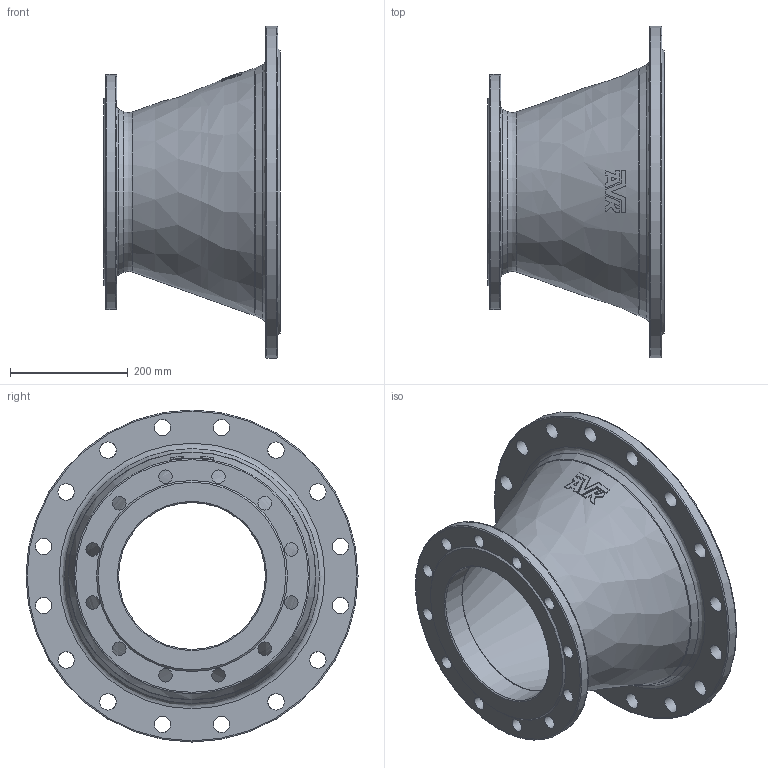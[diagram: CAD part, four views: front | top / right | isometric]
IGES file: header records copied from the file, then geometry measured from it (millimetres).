
Start section: SolidWorks IGES file using analytic representation for surfaces
Global section: file name: \\avksan2\techshare\PBM outline export from Enovia\O_712_2210_DN400_DN250_0X_REV01.igs; native system: SolidWorks 2022; preprocessor: SolidWorks 2022; author: pbm; date: 240808.084458; units: millimetre
Bounding box: 300 x 565 x 565 mm (x, y, z)
Surface area: 1046369.9 mm2 (no closed solid volume)
Topology: 0 solids, 0 shells, 113 faces, 568 edges, 518 vertices
Faces by surface type: bspline 57, revolution 56
